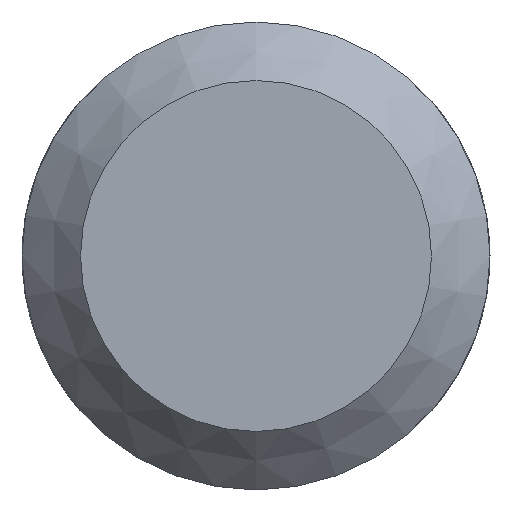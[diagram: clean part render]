
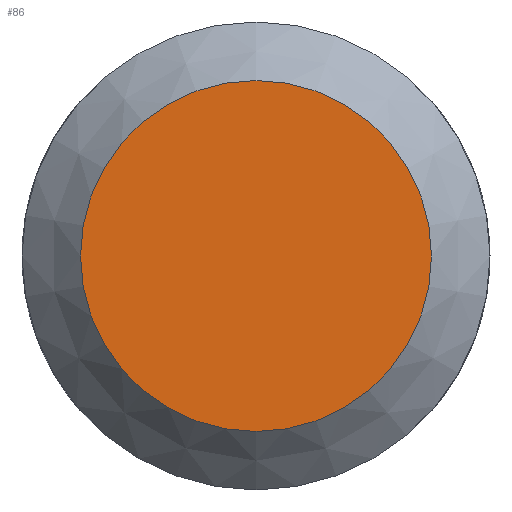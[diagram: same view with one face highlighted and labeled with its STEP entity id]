
A CAD part, left-side view. The second image highlights one B-rep face of the part: STEP entity #86.
In plain terms, the highlighted planar face has unit normal (-1, 0, 0).
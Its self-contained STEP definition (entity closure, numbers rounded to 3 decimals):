
#86 = ADVANCED_FACE( '', ( #122 ), #123, .F. );
#122 = FACE_OUTER_BOUND( '', #161, .T. );
#123 = PLANE( '', #162 );
#161 = EDGE_LOOP( '', ( #231 ) );
#162 = AXIS2_PLACEMENT_3D( '', #232, #233, #234 );
#231 = ORIENTED_EDGE( '', *, *, #267, .F. );
#232 = CARTESIAN_POINT( '', ( -198., 0., 0. ) );
#233 = DIRECTION( '', ( 1., 0., 0. ) );
#234 = DIRECTION( '', ( 0., 0., -1. ) );
#267 = EDGE_CURVE( '', #300, #300, #301, .T. );
#300 = VERTEX_POINT( '', #420 );
#301 = CIRCLE( '', #421, 3. );
#420 = CARTESIAN_POINT( '', ( -198., 0., -3. ) );
#421 = AXIS2_PLACEMENT_3D( '', #486, #487, #488 );
#486 = CARTESIAN_POINT( '', ( -198., 0., 0. ) );
#487 = DIRECTION( '', ( 1., 0., 0. ) );
#488 = DIRECTION( '', ( 0., 0., -1. ) );
